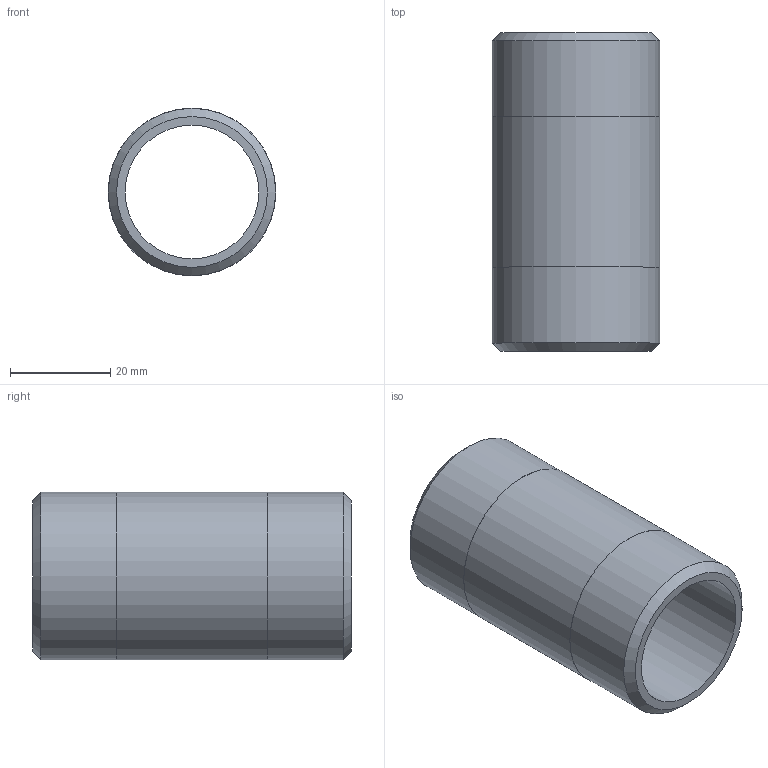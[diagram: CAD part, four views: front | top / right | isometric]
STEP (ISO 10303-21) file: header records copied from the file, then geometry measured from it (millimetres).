
FILE_DESCRIPTION(/* description */ (''),/* implementation_level */ '2;1');
FILE_NAME(/* name */ 'C:/Users/drich/Desktop/SSPN1-2-1_2 v1.step',/* time_stamp */ '2020-01-03T16:29:04-06:00',/* author */ (''),/* organization */ (''),/* preprocessor_version */ 'ST-DEVELOPER v18',/* originating_system */ 'Autodesk Translation Framework v8.12.0.6',/* authorisation */ '');
FILE_SCHEMA (('AUTOMOTIVE_DESIGN { 1 0 10303 214 3 1 1 }'));
Length unit declared in the file: inch
Products named in the file (1): SSPN1-2-1_2
Bounding box: 33.4 x 63.5 x 33.4 mm (x, y, z)
Volume: 19867.4 mm3; surface area: 12400.7 mm2
Topology: 1 solids, 1 shells, 10 faces, 24 edges, 18 vertices
Faces by surface type: cylinder 4, plane 4, cone 2
Full cylindrical faces by diameter (mm): 26.645 x1, 33.35 x2, 33.401 x1
Entity records: 353 total; most frequent: DIRECTION 64, CARTESIAN_POINT 53, ORIENTED_EDGE 48, AXIS2_PLACEMENT_3D 29, EDGE_CURVE 24, CIRCLE 18, VERTEX_POINT 18, EDGE_LOOP 14
